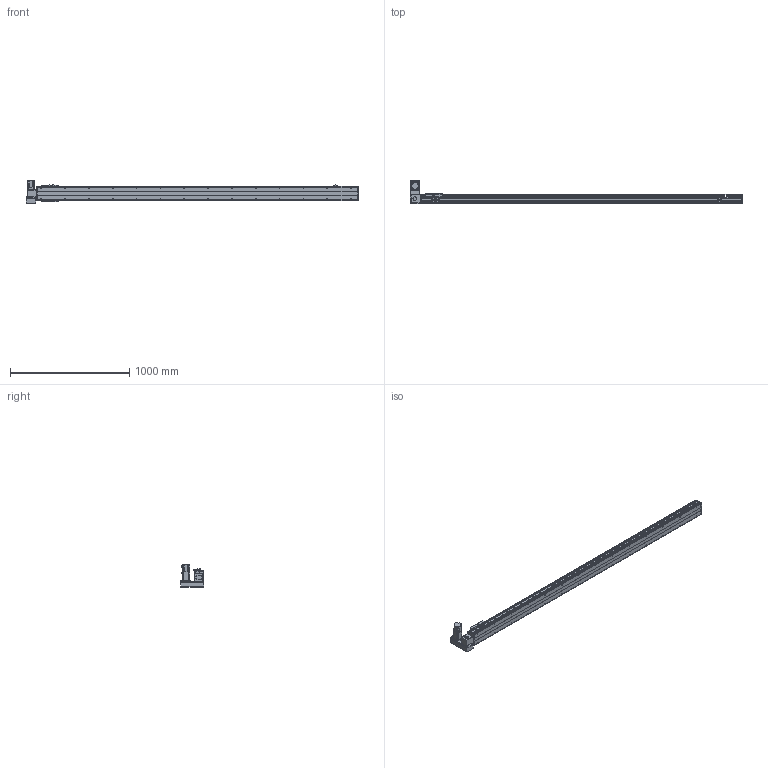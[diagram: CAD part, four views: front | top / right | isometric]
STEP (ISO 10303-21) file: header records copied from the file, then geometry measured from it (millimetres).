
FILE_DESCRIPTION(/* description */ ('STEP AP214'),/* implementation_level */ '2;1');
FILE_NAME(/* name */ 'PBS120-P40-S2400-LU-T40-C1-N(0)',/* time_stamp */ '2022-06-06T02:33:54+02:00',/* author */ ('License CC BY-ND 4.0'),/* organization */ ('CADENAS'),/* preprocessor_version */ 'ST-DEVELOPER v18.102',/* originating_system */ 'PARTsolutions',/* authorisation */ ' ');
FILE_SCHEMA (('AUTOMOTIVE_DESIGN {1 0 10303 214 3 1 1}'));
Length unit declared in the file: millimetre
Products named in the file (7): PBS120-P40-S2400-LU-T40-C1-N(0); PBS120_sensor; PBS120_plant; PBS120_sliser; T40-p1; PBS120T-LU_motors; PBS120-S2400()_body
Assembly tree (8 placements, depth 2):
  PBS120-P40-S2400-LU-T40-C1-N(0)
    PBS120_sensor  x3
    PBS120_plant
    PBS120_sliser
    T40-p1
    PBS120T-LU_motors
    PBS120-S2400()_body
Bounding box: 2786 x 198 x 189.7 mm (x, y, z)
Volume: 10518333.9 mm3; surface area: 2169084 mm2
Topology: 8 solids, 8 shells, 864 faces, 2216 edges, 1423 vertices
Faces by surface type: plane 561, cylinder 241, cone 60, torus 2
Full cylindrical faces by diameter (mm): 2.459 x6, 3.242 x4, 4 x2, 4.134 x4, 4.5 x10, 4.917 x32, 5.5 x11, 6 x2, 6.6 x1, 7 x2, 8.5 x4, 9 x4, 12 x1, 14 x1, 30 x2, 40 x1, 50 x2
Entity records: 22314 total; most frequent: DIRECTION 3884, CARTESIAN_POINT 3785, ORIENTED_EDGE 3574, EDGE_CURVE 1787, AXIS2_PLACEMENT_3D 1328, VERTEX_POINT 1229, LINE 1228, VECTOR 1228
